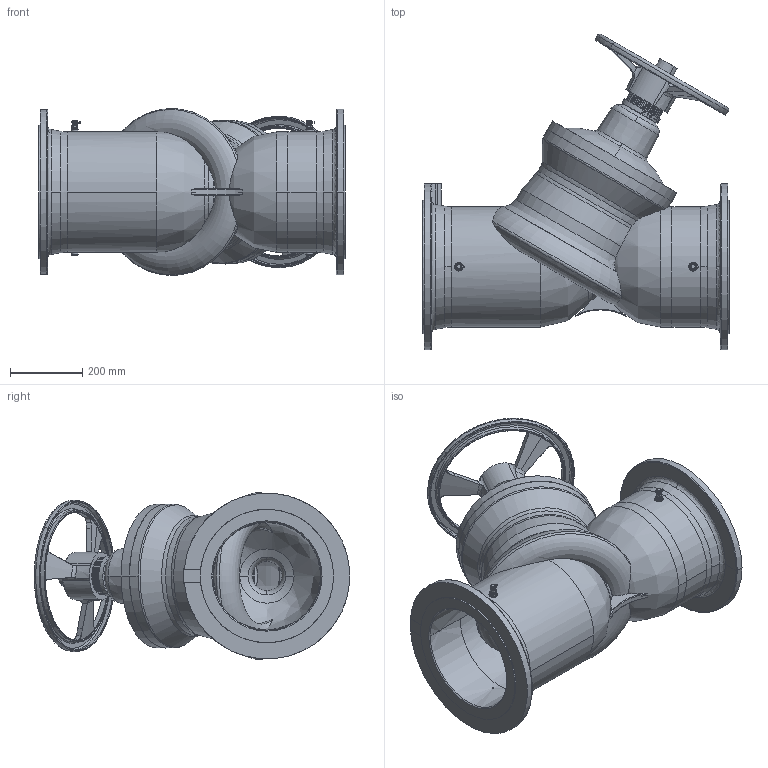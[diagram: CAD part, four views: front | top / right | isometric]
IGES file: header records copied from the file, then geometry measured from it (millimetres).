
Global section: file name: No Iges File Name specified; native system: AutoDesk Inventor R12.0; preprocessor: AutoDesk Inventor Iges Exporter R12.0; date: 20110301.154949; units: millimetre
Bounding box: 850 x 875.55 x 462.62 mm (x, y, z)
Volume: 44319980.4 mm3; surface area: 3261687.8 mm2
Topology: 1 solids, 4 shells, 1021 faces, 2675 edges, 1754 vertices
Faces by surface type: plane 328, bspline 305, cylinder 132, revolution 126, cone 76, torus 54
